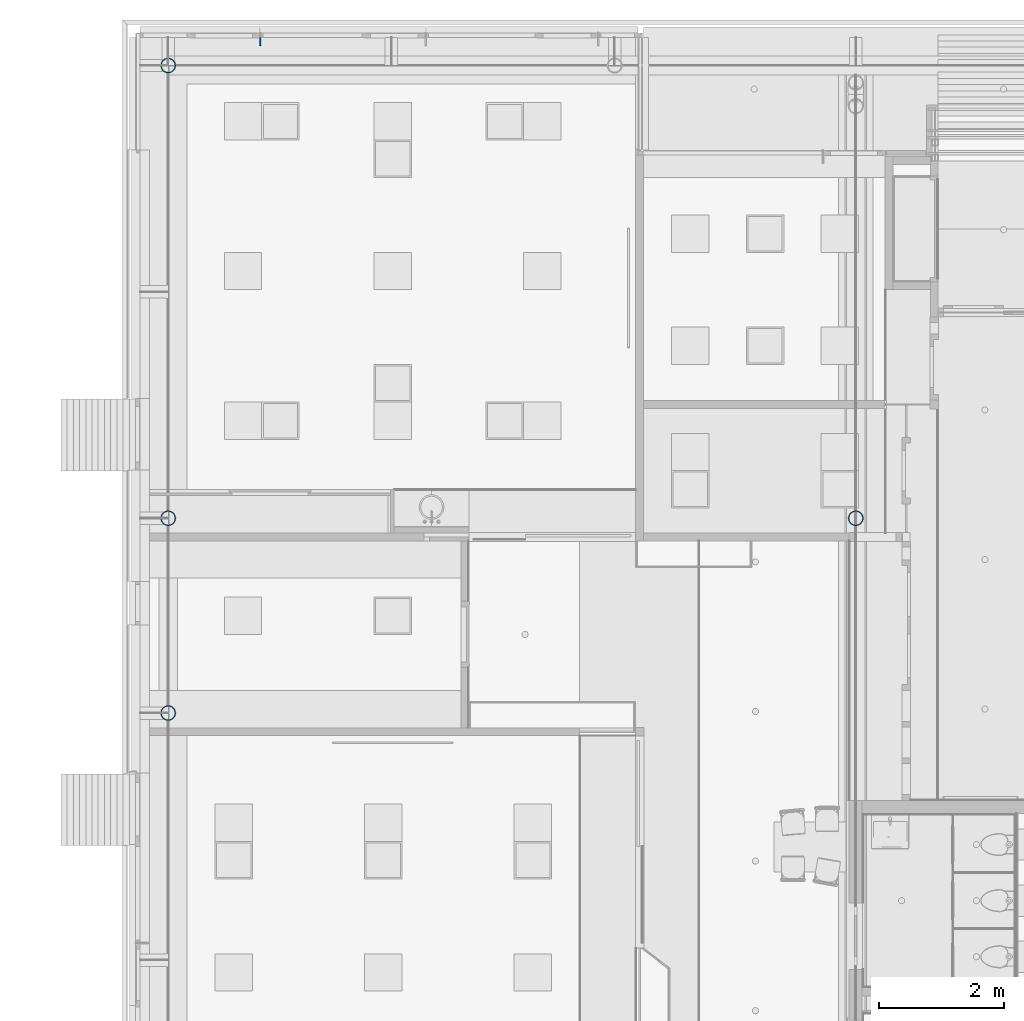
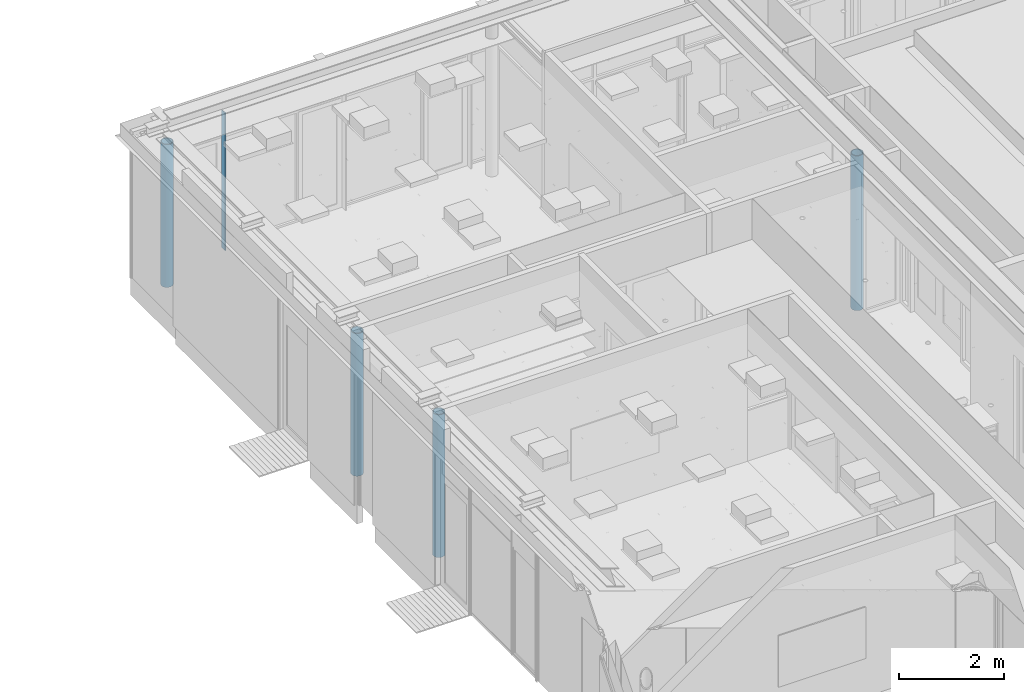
# One storey, part 18 of 347: 5 columns.
"""IFC2X3 building model written with IfcOpenShell, lengths in millimetres."""

from ifc_helpers import new_model, entity, si_unit, converted_unit, derived_unit, money_unit, direction, frame, origin_with_axes, place, context, subcontext, project, spatial, faceted_brep, material, type_object, element, save


model = new_model("IFC2X3")

# Units and contexts
model_context = context("Model", 3, precision=0.01, world=origin_with_axes(), true_north=direction((0.0, 1.0)))
plan_context = context("Plan", 3, precision=0.01, world=origin_with_axes(), true_north=direction((0.0, 1.0)))
body_context = subcontext(model_context, "Body", "Model", "MODEL_VIEW")
ifc_project = project(units=[si_unit("LENGTHUNIT", "METRE", prefix="MILLI"), si_unit("AREAUNIT", "SQUARE_METRE"), si_unit("VOLUMEUNIT", "CUBIC_METRE"), converted_unit("PLANEANGLEUNIT", "DEGREE", entity("IfcPlaneAngleMeasure", 0.0174532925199), si_unit("PLANEANGLEUNIT", "RADIAN"), dimensions=[0, 0, 0, 0, 0, 0, 0]), money_unit("EUR"), converted_unit("TIMEUNIT", "Year", entity("IfcTimeMeasure", 31556926.0), si_unit("TIMEUNIT", "SECOND"), dimensions=[0, 0, 1, 0, 0, 0, 0]), si_unit("MASSUNIT", "GRAM", prefix="KILO"), si_unit("THERMODYNAMICTEMPERATUREUNIT", "DEGREE_CELSIUS"), si_unit("LUMINOUSINTENSITYUNIT", "LUMEN"), si_unit("ENERGYUNIT", "JOULE", prefix="MEGA"), derived_unit("THERMALCONDUCTANCEUNIT", [(si_unit("POWERUNIT", "WATT"), 1), (si_unit("LENGTHUNIT", "METRE"), -1), (si_unit("THERMODYNAMICTEMPERATUREUNIT", "KELVIN"), -1)]), derived_unit("SPECIFICHEATCAPACITYUNIT", [(si_unit("ENERGYUNIT", "JOULE"), 1), (si_unit("MASSUNIT", "GRAM", prefix="KILO"), -1), (si_unit("THERMODYNAMICTEMPERATUREUNIT", "KELVIN"), -1)]), derived_unit("MASSDENSITYUNIT", [(si_unit("MASSUNIT", "GRAM", prefix="KILO"), 1), (si_unit("VOLUMEUNIT", "CUBIC_METRE"), -1)])], contexts=[model_context, plan_context])

# Site, building, storey
site_placement = place(None, origin_with_axes())
site = spatial("IfcSite", under=ifc_project, at=site_placement, Name="Site", CompositionType="ELEMENT")
building_placement = place(site_placement, origin_with_axes())
building = spatial("IfcBuilding", under=site, at=building_placement, Name="Naam gebouw", CompositionType="ELEMENT")
storey_placement = place(building_placement, origin_with_axes())
storey = spatial("IfcBuildingStorey", under=building, at=storey_placement, Name="begane grond", CompositionType="ELEMENT", Elevation=0.0)

# Columns
ifc_material = material(Name="Metaal - Staal C wit")
column_type_1 = type_object("IfcColumnType", Name="Lucht D245", PredefinedType="COLUMN")
column_1_placement = place(storey_placement, frame((35605.0, 39325.0, -70.0), z_axis=(0.0, 0.0, 1.0), x_axis=(1.0, 0.0, 0.0)))
element("IfcColumn", 1, at=column_1_placement, inside=storey, type_object=column_type_1, material=ifc_material, Name="28_kolom ø 273mm", ObjectType="COLUMN", context=body_context, shape_type="Brep", body=[
    faceted_brep([(-122.25, 0.0, 0.0), (-119.184937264, -27.2031841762, 0.0), (-119.184937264, -27.2031841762, 3610.0), (-122.25, 0.0, 3610.0), (-119.184937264, 27.2031841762, 0.0), (-110.143444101, 53.0422871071, 0.0), (-95.5788987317, 76.2216282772, 0.0), (-76.2216282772, 95.5788987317, 0.0), (-53.0422871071, 110.143444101, 0.0), (-27.2031841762, 119.184937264, 0.0), (0.0, 122.25, 0.0), (27.2031841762, 119.184937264, 0.0), (53.0422871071, 110.143444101, 0.0), (76.2216282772, 95.5788987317, 0.0), (95.5788987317, 76.2216282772, 0.0), (110.143444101, 53.0422871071, 0.0), (119.184937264, 27.2031841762, 0.0), (122.25, 0.0, 0.0), (119.184937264, -27.2031841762, 0.0), (110.143444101, -53.0422871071, 0.0), (95.5788987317, -76.2216282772, 0.0), (76.2216282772, -95.5788987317, 0.0), (53.0422871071, -110.143444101, 0.0), (27.2031841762, -119.184937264, 0.0), (0.0, -122.25, 0.0), (-27.2031841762, -119.184937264, 0.0), (-53.0422871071, -110.143444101, 0.0), (-76.2216282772, -95.5788987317, 0.0), (-95.5788987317, -76.2216282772, 0.0), (-110.143444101, -53.0422871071, 0.0), (-106.25, 0.0, 0.0), (-102.629619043, -27.4995235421, 0.0), (-92.0151991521, -53.125, 0.0), (-75.1300955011, -75.1300955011, 0.0), (-53.125, -92.0151991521, 0.0), (-27.4995235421, -102.629619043, 0.0), (0.0, -106.25, 0.0), (27.4995235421, -102.629619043, 0.0), (53.125, -92.0151991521, 0.0), (75.1300955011, -75.1300955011, 0.0), (92.0151991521, -53.125, 0.0), (102.629619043, -27.4995235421, 0.0), (106.25, 0.0, 0.0), (102.629619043, 27.4995235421, 0.0), (92.0151991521, 53.125, 0.0), (75.1300955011, 75.1300955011, 0.0), (53.125, 92.0151991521, 0.0), (27.4995235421, 102.629619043, 0.0), (0.0, 106.25, 0.0), (-27.4995235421, 102.629619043, 0.0), (-53.125, 92.0151991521, 0.0), (-75.1300955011, 75.1300955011, 0.0), (-92.0151991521, 53.125, 0.0), (-102.629619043, 27.4995235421, 0.0), (-110.143444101, -53.0422871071, 3610.0), (-95.5788987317, -76.2216282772, 3610.0), (-76.2216282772, -95.5788987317, 3610.0), (-53.0422871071, -110.143444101, 3610.0), (-27.2031841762, -119.184937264, 3610.0), (0.0, -122.25, 3610.0), (27.2031841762, -119.184937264, 3610.0), (53.0422871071, -110.143444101, 3610.0), (76.2216282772, -95.5788987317, 3610.0), (95.5788987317, -76.2216282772, 3610.0), (110.143444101, -53.0422871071, 3610.0), (119.184937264, -27.2031841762, 3610.0), (122.25, 0.0, 3610.0), (119.184937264, 27.2031841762, 3610.0), (110.143444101, 53.0422871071, 3610.0), (95.5788987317, 76.2216282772, 3610.0), (76.2216282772, 95.5788987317, 3610.0), (53.0422871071, 110.143444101, 3610.0), (27.2031841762, 119.184937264, 3610.0), (0.0, 122.25, 3610.0), (-27.2031841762, 119.184937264, 3610.0), (-53.0422871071, 110.143444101, 3610.0), (-76.2216282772, 95.5788987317, 3610.0), (-95.5788987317, 76.2216282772, 3610.0), (-110.143444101, 53.0422871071, 3610.0), (-119.184937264, 27.2031841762, 3610.0), (-106.25, 0.0, 3610.0), (-102.629619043, 27.4995235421, 3610.0), (-92.0151991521, 53.125, 3610.0), (-75.1300955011, 75.1300955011, 3610.0), (-53.125, 92.0151991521, 3610.0), (-27.4995235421, 102.629619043, 3610.0), (0.0, 106.25, 3610.0), (27.4995235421, 102.629619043, 3610.0), (53.125, 92.0151991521, 3610.0), (75.1300955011, 75.1300955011, 3610.0), (92.0151991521, 53.125, 3610.0), (102.629619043, 27.4995235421, 3610.0), (106.25, 0.0, 3610.0), (102.629619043, -27.4995235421, 3610.0), (92.0151991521, -53.125, 3610.0), (75.1300955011, -75.1300955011, 3610.0), (53.125, -92.0151991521, 3610.0), (27.4995235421, -102.629619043, 3610.0), (0.0, -106.25, 3610.0), (-27.4995235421, -102.629619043, 3610.0), (-53.125, -92.0151991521, 3610.0), (-75.1300955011, -75.1300955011, 3610.0), (-92.0151991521, -53.125, 3610.0), (-102.629619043, -27.4995235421, 3610.0)], [[[0, 1, 2, 3]], [[0, 4, 5, 6, 7, 8, 9, 10, 11, 12, 13, 14, 15, 16, 17, 18, 19, 20, 21, 22, 23, 24, 25, 26, 27, 28, 29, 1], [30, 31, 32, 33, 34, 35, 36, 37, 38, 39, 40, 41, 42, 43, 44, 45, 46, 47, 48, 49, 50, 51, 52, 53]], [[1, 29, 54, 2]], [[3, 2, 54, 55, 56, 57, 58, 59, 60, 61, 62, 63, 64, 65, 66, 67, 68, 69, 70, 71, 72, 73, 74, 75, 76, 77, 78, 79], [80, 81, 82, 83, 84, 85, 86, 87, 88, 89, 90, 91, 92, 93, 94, 95, 96, 97, 98, 99, 100, 101, 102, 103]], [[4, 0, 3, 79]], [[5, 4, 79, 78]], [[6, 5, 78, 77]], [[7, 6, 77, 76]], [[8, 7, 76, 75]], [[9, 8, 75, 74]], [[10, 9, 74, 73]], [[11, 10, 73, 72]], [[12, 11, 72, 71]], [[13, 12, 71, 70]], [[14, 13, 70, 69]], [[15, 14, 69, 68]], [[16, 15, 68, 67]], [[17, 16, 67, 66]], [[18, 17, 66, 65]], [[19, 18, 65, 64]], [[20, 19, 64, 63]], [[21, 20, 63, 62]], [[22, 21, 62, 61]], [[23, 22, 61, 60]], [[24, 23, 60, 59]], [[25, 24, 59, 58]], [[26, 25, 58, 57]], [[27, 26, 57, 56]], [[28, 27, 56, 55]], [[29, 28, 55, 54]], [[31, 30, 80, 103]], [[32, 31, 103, 102]], [[33, 32, 102, 101]], [[34, 33, 101, 100]], [[35, 34, 100, 99]], [[36, 35, 99, 98]], [[37, 36, 98, 97]], [[38, 37, 97, 96]], [[39, 38, 96, 95]], [[40, 39, 95, 94]], [[41, 40, 94, 93]], [[42, 41, 93, 92]], [[43, 42, 92, 91]], [[44, 43, 91, 90]], [[45, 44, 90, 89]], [[46, 45, 89, 88]], [[47, 46, 88, 87]], [[48, 47, 87, 86]], [[49, 48, 86, 85]], [[50, 49, 85, 84]], [[51, 50, 84, 83]], [[52, 51, 83, 82]], [[53, 52, 82, 81]], [[30, 53, 81, 80]]]),
])
column_2_placement = place(storey_placement, frame((24575.0, 39325.0, -70.0), z_axis=(0.0, 0.0, 1.0), x_axis=(1.0, 0.0, 0.0)))
element("IfcColumn", 2, at=column_2_placement, inside=storey, type_object=column_type_1, material=ifc_material, Name="28_kolom ø 273mm", ObjectType="COLUMN", context=body_context, shape_type="Brep", body=[
    faceted_brep([(-122.25, 0.0, 0.0), (-119.184937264, -27.2031841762, 0.0), (-119.184937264, -27.2031841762, 3330.0), (-122.25, 0.0, 3330.0), (-119.184937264, 27.2031841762, 0.0), (-110.143444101, 53.0422871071, 0.0), (-95.5788987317, 76.2216282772, 0.0), (-76.2216282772, 95.5788987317, 0.0), (-53.0422871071, 110.143444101, 0.0), (-27.2031841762, 119.184937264, 0.0), (0.0, 122.25, 0.0), (27.2031841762, 119.184937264, 0.0), (53.0422871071, 110.143444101, 0.0), (76.2216282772, 95.5788987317, 0.0), (95.5788987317, 76.2216282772, 0.0), (110.143444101, 53.0422871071, 0.0), (119.184937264, 27.2031841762, 0.0), (122.25, 0.0, 0.0), (119.184937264, -27.2031841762, 0.0), (110.143444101, -53.0422871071, 0.0), (95.5788987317, -76.2216282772, 0.0), (76.2216282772, -95.5788987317, 0.0), (53.0422871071, -110.143444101, 0.0), (27.2031841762, -119.184937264, 0.0), (0.0, -122.25, 0.0), (-27.2031841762, -119.184937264, 0.0), (-53.0422871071, -110.143444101, 0.0), (-76.2216282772, -95.5788987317, 0.0), (-95.5788987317, -76.2216282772, 0.0), (-110.143444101, -53.0422871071, 0.0), (-106.25, 0.0, 0.0), (-102.629619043, -27.4995235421, 0.0), (-92.0151991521, -53.125, 0.0), (-75.1300955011, -75.1300955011, 0.0), (-53.125, -92.0151991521, 0.0), (-27.4995235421, -102.629619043, 0.0), (0.0, -106.25, 0.0), (27.4995235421, -102.629619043, 0.0), (53.125, -92.0151991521, 0.0), (75.1300955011, -75.1300955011, 0.0), (92.0151991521, -53.125, 0.0), (102.629619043, -27.4995235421, 0.0), (106.25, 0.0, 0.0), (102.629619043, 27.4995235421, 0.0), (92.0151991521, 53.125, 0.0), (75.1300955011, 75.1300955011, 0.0), (53.125, 92.0151991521, 0.0), (27.4995235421, 102.629619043, 0.0), (0.0, 106.25, 0.0), (-27.4995235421, 102.629619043, 0.0), (-53.125, 92.0151991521, 0.0), (-75.1300955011, 75.1300955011, 0.0), (-92.0151991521, 53.125, 0.0), (-102.629619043, 27.4995235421, 0.0), (-110.143444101, -53.0422871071, 3330.0), (-95.5788987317, -76.2216282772, 3330.0), (-76.2216282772, -95.5788987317, 3330.0), (-53.0422871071, -110.143444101, 3330.0), (-27.2031841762, -119.184937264, 3330.0), (0.0, -122.25, 3330.0), (27.2031841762, -119.184937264, 3330.0), (53.0422871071, -110.143444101, 3330.0), (76.2216282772, -95.5788987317, 3330.0), (95.5788987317, -76.2216282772, 3330.0), (110.143444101, -53.0422871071, 3330.0), (119.184937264, -27.2031841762, 3330.0), (122.25, 0.0, 3330.0), (119.184937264, 27.2031841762, 3330.0), (110.143444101, 53.0422871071, 3330.0), (95.5788987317, 76.2216282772, 3330.0), (76.2216282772, 95.5788987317, 3330.0), (53.0422871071, 110.143444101, 3330.0), (27.2031841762, 119.184937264, 3330.0), (0.0, 122.25, 3330.0), (-27.2031841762, 119.184937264, 3330.0), (-53.0422871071, 110.143444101, 3330.0), (-76.2216282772, 95.5788987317, 3330.0), (-95.5788987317, 76.2216282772, 3330.0), (-110.143444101, 53.0422871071, 3330.0), (-119.184937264, 27.2031841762, 3330.0), (-106.25, 0.0, 3330.0), (-102.629619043, 27.4995235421, 3330.0), (-92.0151991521, 53.125, 3330.0), (-75.1300955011, 75.1300955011, 3330.0), (-53.125, 92.0151991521, 3330.0), (-27.4995235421, 102.629619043, 3330.0), (0.0, 106.25, 3330.0), (27.4995235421, 102.629619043, 3330.0), (53.125, 92.0151991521, 3330.0), (75.1300955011, 75.1300955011, 3330.0), (92.0151991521, 53.125, 3330.0), (102.629619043, 27.4995235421, 3330.0), (106.25, 0.0, 3330.0), (102.629619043, -27.4995235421, 3330.0), (92.0151991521, -53.125, 3330.0), (75.1300955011, -75.1300955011, 3330.0), (53.125, -92.0151991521, 3330.0), (27.4995235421, -102.629619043, 3330.0), (0.0, -106.25, 3330.0), (-27.4995235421, -102.629619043, 3330.0), (-53.125, -92.0151991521, 3330.0), (-75.1300955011, -75.1300955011, 3330.0), (-92.0151991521, -53.125, 3330.0), (-102.629619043, -27.4995235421, 3330.0)], [[[0, 1, 2, 3]], [[0, 4, 5, 6, 7, 8, 9, 10, 11, 12, 13, 14, 15, 16, 17, 18, 19, 20, 21, 22, 23, 24, 25, 26, 27, 28, 29, 1], [30, 31, 32, 33, 34, 35, 36, 37, 38, 39, 40, 41, 42, 43, 44, 45, 46, 47, 48, 49, 50, 51, 52, 53]], [[1, 29, 54, 2]], [[3, 2, 54, 55, 56, 57, 58, 59, 60, 61, 62, 63, 64, 65, 66, 67, 68, 69, 70, 71, 72, 73, 74, 75, 76, 77, 78, 79], [80, 81, 82, 83, 84, 85, 86, 87, 88, 89, 90, 91, 92, 93, 94, 95, 96, 97, 98, 99, 100, 101, 102, 103]], [[4, 0, 3, 79]], [[5, 4, 79, 78]], [[6, 5, 78, 77]], [[7, 6, 77, 76]], [[8, 7, 76, 75]], [[9, 8, 75, 74]], [[10, 9, 74, 73]], [[11, 10, 73, 72]], [[12, 11, 72, 71]], [[13, 12, 71, 70]], [[14, 13, 70, 69]], [[15, 14, 69, 68]], [[16, 15, 68, 67]], [[17, 16, 67, 66]], [[18, 17, 66, 65]], [[19, 18, 65, 64]], [[20, 19, 64, 63]], [[21, 20, 63, 62]], [[22, 21, 62, 61]], [[23, 22, 61, 60]], [[24, 23, 60, 59]], [[25, 24, 59, 58]], [[26, 25, 58, 57]], [[27, 26, 57, 56]], [[28, 27, 56, 55]], [[29, 28, 55, 54]], [[31, 30, 80, 103]], [[32, 31, 103, 102]], [[33, 32, 102, 101]], [[34, 33, 101, 100]], [[35, 34, 100, 99]], [[36, 35, 99, 98]], [[37, 36, 98, 97]], [[38, 37, 97, 96]], [[39, 38, 96, 95]], [[40, 39, 95, 94]], [[41, 40, 94, 93]], [[42, 41, 93, 92]], [[43, 42, 92, 91]], [[44, 43, 91, 90]], [[45, 44, 90, 89]], [[46, 45, 89, 88]], [[47, 46, 88, 87]], [[48, 47, 87, 86]], [[49, 48, 86, 85]], [[50, 49, 85, 84]], [[51, 50, 84, 83]], [[52, 51, 83, 82]], [[53, 52, 82, 81]], [[30, 53, 81, 80]]]),
])
column_3_placement = place(storey_placement, frame((24575.0, 36200.0, -70.0), z_axis=(0.0, 0.0, 1.0), x_axis=(1.0, 0.0, 0.0)))
element("IfcColumn", 3, at=column_3_placement, inside=storey, type_object=column_type_1, material=ifc_material, Name="28_kolom ø 273mm", ObjectType="COLUMN", context=body_context, shape_type="Brep", body=[
    faceted_brep([(-122.25, 0.0, 0.0), (-119.184937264, -27.2031841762, 0.0), (-119.184937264, -27.2031841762, 3330.0), (-122.25, 0.0, 3330.0), (-119.184937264, 27.2031841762, 0.0), (-110.143444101, 53.0422871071, 0.0), (-95.5788987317, 76.2216282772, 0.0), (-76.2216282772, 95.5788987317, 0.0), (-53.0422871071, 110.143444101, 0.0), (-27.2031841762, 119.184937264, 0.0), (0.0, 122.25, 0.0), (27.2031841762, 119.184937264, 0.0), (53.0422871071, 110.143444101, 0.0), (76.2216282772, 95.5788987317, 0.0), (95.5788987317, 76.2216282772, 0.0), (110.143444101, 53.0422871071, 0.0), (119.184937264, 27.2031841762, 0.0), (122.25, 0.0, 0.0), (119.184937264, -27.2031841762, 0.0), (110.143444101, -53.0422871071, 0.0), (95.5788987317, -76.2216282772, 0.0), (76.2216282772, -95.5788987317, 0.0), (53.0422871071, -110.143444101, 0.0), (27.2031841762, -119.184937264, 0.0), (0.0, -122.25, 0.0), (-27.2031841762, -119.184937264, 0.0), (-53.0422871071, -110.143444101, 0.0), (-76.2216282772, -95.5788987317, 0.0), (-95.5788987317, -76.2216282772, 0.0), (-110.143444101, -53.0422871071, 0.0), (-106.25, 0.0, 0.0), (-102.629619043, -27.4995235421, 0.0), (-92.0151991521, -53.125, 0.0), (-75.1300955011, -75.1300955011, 0.0), (-53.125, -92.0151991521, 0.0), (-27.4995235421, -102.629619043, 0.0), (0.0, -106.25, 0.0), (27.4995235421, -102.629619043, 0.0), (53.125, -92.0151991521, 0.0), (75.1300955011, -75.1300955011, 0.0), (92.0151991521, -53.125, 0.0), (102.629619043, -27.4995235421, 0.0), (106.25, 0.0, 0.0), (102.629619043, 27.4995235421, 0.0), (92.0151991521, 53.125, 0.0), (75.1300955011, 75.1300955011, 0.0), (53.125, 92.0151991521, 0.0), (27.4995235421, 102.629619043, 0.0), (0.0, 106.25, 0.0), (-27.4995235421, 102.629619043, 0.0), (-53.125, 92.0151991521, 0.0), (-75.1300955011, 75.1300955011, 0.0), (-92.0151991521, 53.125, 0.0), (-102.629619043, 27.4995235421, 0.0), (-110.143444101, -53.0422871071, 3330.0), (-95.5788987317, -76.2216282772, 3330.0), (-76.2216282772, -95.5788987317, 3330.0), (-53.0422871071, -110.143444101, 3330.0), (-27.2031841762, -119.184937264, 3330.0), (0.0, -122.25, 3330.0), (27.2031841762, -119.184937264, 3330.0), (53.0422871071, -110.143444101, 3330.0), (76.2216282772, -95.5788987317, 3330.0), (95.5788987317, -76.2216282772, 3330.0), (110.143444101, -53.0422871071, 3330.0), (119.184937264, -27.2031841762, 3330.0), (122.25, 0.0, 3330.0), (119.184937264, 27.2031841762, 3330.0), (110.143444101, 53.0422871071, 3330.0), (95.5788987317, 76.2216282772, 3330.0), (76.2216282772, 95.5788987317, 3330.0), (53.0422871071, 110.143444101, 3330.0), (27.2031841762, 119.184937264, 3330.0), (0.0, 122.25, 3330.0), (-27.2031841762, 119.184937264, 3330.0), (-53.0422871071, 110.143444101, 3330.0), (-76.2216282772, 95.5788987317, 3330.0), (-95.5788987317, 76.2216282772, 3330.0), (-110.143444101, 53.0422871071, 3330.0), (-119.184937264, 27.2031841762, 3330.0), (-106.25, 0.0, 3330.0), (-102.629619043, 27.4995235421, 3330.0), (-92.0151991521, 53.125, 3330.0), (-75.1300955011, 75.1300955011, 3330.0), (-53.125, 92.0151991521, 3330.0), (-27.4995235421, 102.629619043, 3330.0), (0.0, 106.25, 3330.0), (27.4995235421, 102.629619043, 3330.0), (53.125, 92.0151991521, 3330.0), (75.1300955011, 75.1300955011, 3330.0), (92.0151991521, 53.125, 3330.0), (102.629619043, 27.4995235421, 3330.0), (106.25, 0.0, 3330.0), (102.629619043, -27.4995235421, 3330.0), (92.0151991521, -53.125, 3330.0), (75.1300955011, -75.1300955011, 3330.0), (53.125, -92.0151991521, 3330.0), (27.4995235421, -102.629619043, 3330.0), (0.0, -106.25, 3330.0), (-27.4995235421, -102.629619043, 3330.0), (-53.125, -92.0151991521, 3330.0), (-75.1300955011, -75.1300955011, 3330.0), (-92.0151991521, -53.125, 3330.0), (-102.629619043, -27.4995235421, 3330.0)], [[[0, 1, 2, 3]], [[0, 4, 5, 6, 7, 8, 9, 10, 11, 12, 13, 14, 15, 16, 17, 18, 19, 20, 21, 22, 23, 24, 25, 26, 27, 28, 29, 1], [30, 31, 32, 33, 34, 35, 36, 37, 38, 39, 40, 41, 42, 43, 44, 45, 46, 47, 48, 49, 50, 51, 52, 53]], [[1, 29, 54, 2]], [[3, 2, 54, 55, 56, 57, 58, 59, 60, 61, 62, 63, 64, 65, 66, 67, 68, 69, 70, 71, 72, 73, 74, 75, 76, 77, 78, 79], [80, 81, 82, 83, 84, 85, 86, 87, 88, 89, 90, 91, 92, 93, 94, 95, 96, 97, 98, 99, 100, 101, 102, 103]], [[4, 0, 3, 79]], [[5, 4, 79, 78]], [[6, 5, 78, 77]], [[7, 6, 77, 76]], [[8, 7, 76, 75]], [[9, 8, 75, 74]], [[10, 9, 74, 73]], [[11, 10, 73, 72]], [[12, 11, 72, 71]], [[13, 12, 71, 70]], [[14, 13, 70, 69]], [[15, 14, 69, 68]], [[16, 15, 68, 67]], [[17, 16, 67, 66]], [[18, 17, 66, 65]], [[19, 18, 65, 64]], [[20, 19, 64, 63]], [[21, 20, 63, 62]], [[22, 21, 62, 61]], [[23, 22, 61, 60]], [[24, 23, 60, 59]], [[25, 24, 59, 58]], [[26, 25, 58, 57]], [[27, 26, 57, 56]], [[28, 27, 56, 55]], [[29, 28, 55, 54]], [[31, 30, 80, 103]], [[32, 31, 103, 102]], [[33, 32, 102, 101]], [[34, 33, 101, 100]], [[35, 34, 100, 99]], [[36, 35, 99, 98]], [[37, 36, 98, 97]], [[38, 37, 97, 96]], [[39, 38, 96, 95]], [[40, 39, 95, 94]], [[41, 40, 94, 93]], [[42, 41, 93, 92]], [[43, 42, 92, 91]], [[44, 43, 91, 90]], [[45, 44, 90, 89]], [[46, 45, 89, 88]], [[47, 46, 88, 87]], [[48, 47, 87, 86]], [[49, 48, 86, 85]], [[50, 49, 85, 84]], [[51, 50, 84, 83]], [[52, 51, 83, 82]], [[53, 52, 82, 81]], [[30, 53, 81, 80]]]),
])
column_4_placement = place(storey_placement, frame((24575.0, 46586.9999775, -70.0), z_axis=(0.0, 0.0, 1.0), x_axis=(1.0, 0.0, 0.0)))
element("IfcColumn", 4, at=column_4_placement, inside=storey, type_object=column_type_1, material=ifc_material, Name="28_kolom ø 273mm", ObjectType="COLUMN", context=body_context, shape_type="Brep", body=[
    faceted_brep([(-122.25, 0.0, 0.0), (-119.184937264, -27.2031841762, 0.0), (-119.184937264, -27.2031841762, 3330.0), (-122.25, 0.0, 3330.0), (-119.184937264, 27.2031841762, 0.0), (-110.143444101, 53.0422871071, 0.0), (-95.5788987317, 76.2216282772, 0.0), (-76.2216282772, 95.5788987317, 0.0), (-53.0422871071, 110.143444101, 0.0), (-27.2031841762, 119.184937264, 0.0), (0.0, 122.25, 0.0), (27.2031841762, 119.184937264, 0.0), (53.0422871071, 110.143444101, 0.0), (76.2216282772, 95.5788987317, 0.0), (95.5788987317, 76.2216282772, 0.0), (110.143444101, 53.0422871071, 0.0), (119.184937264, 27.2031841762, 0.0), (122.25, 0.0, 0.0), (119.184937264, -27.2031841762, 0.0), (110.143444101, -53.0422871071, 0.0), (95.5788987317, -76.2216282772, 0.0), (76.2216282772, -95.5788987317, 0.0), (53.0422871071, -110.143444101, 0.0), (27.2031841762, -119.184937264, 0.0), (0.0, -122.25, 0.0), (-27.2031841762, -119.184937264, 0.0), (-53.0422871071, -110.143444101, 0.0), (-76.2216282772, -95.5788987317, 0.0), (-95.5788987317, -76.2216282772, 0.0), (-110.143444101, -53.0422871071, 0.0), (-106.25, 0.0, 0.0), (-102.629619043, -27.4995235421, 0.0), (-92.0151991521, -53.125, 0.0), (-75.1300955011, -75.1300955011, 0.0), (-53.125, -92.0151991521, 0.0), (-27.4995235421, -102.629619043, 0.0), (0.0, -106.25, 0.0), (27.4995235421, -102.629619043, 0.0), (53.125, -92.0151991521, 0.0), (75.1300955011, -75.1300955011, 0.0), (92.0151991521, -53.125, 0.0), (102.629619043, -27.4995235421, 0.0), (106.25, 0.0, 0.0), (102.629619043, 27.4995235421, 0.0), (92.0151991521, 53.125, 0.0), (75.1300955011, 75.1300955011, 0.0), (53.125, 92.0151991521, 0.0), (27.4995235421, 102.629619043, 0.0), (0.0, 106.25, 0.0), (-27.4995235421, 102.629619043, 0.0), (-53.125, 92.0151991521, 0.0), (-75.1300955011, 75.1300955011, 0.0), (-92.0151991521, 53.125, 0.0), (-102.629619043, 27.4995235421, 0.0), (-110.143444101, -53.0422871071, 3330.0), (-95.5788987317, -76.2216282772, 3330.0), (-76.2216282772, -95.5788987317, 3330.0), (-53.0422871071, -110.143444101, 3330.0), (-27.2031841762, -119.184937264, 3330.0), (0.0, -122.25, 3330.0), (27.2031841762, -119.184937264, 3330.0), (53.0422871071, -110.143444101, 3330.0), (76.2216282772, -95.5788987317, 3330.0), (95.5788987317, -76.2216282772, 3330.0), (110.143444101, -53.0422871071, 3330.0), (119.184937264, -27.2031841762, 3330.0), (122.25, 0.0, 3330.0), (119.184937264, 27.2031841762, 3330.0), (110.143444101, 53.0422871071, 3330.0), (95.5788987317, 76.2216282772, 3330.0), (76.2216282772, 95.5788987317, 3330.0), (53.0422871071, 110.143444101, 3330.0), (27.2031841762, 119.184937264, 3330.0), (0.0, 122.25, 3330.0), (-27.2031841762, 119.184937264, 3330.0), (-53.0422871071, 110.143444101, 3330.0), (-76.2216282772, 95.5788987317, 3330.0), (-95.5788987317, 76.2216282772, 3330.0), (-110.143444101, 53.0422871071, 3330.0), (-119.184937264, 27.2031841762, 3330.0), (-106.25, 0.0, 3330.0), (-102.629619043, 27.4995235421, 3330.0), (-92.0151991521, 53.125, 3330.0), (-75.1300955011, 75.1300955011, 3330.0), (-53.125, 92.0151991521, 3330.0), (-27.4995235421, 102.629619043, 3330.0), (0.0, 106.25, 3330.0), (27.4995235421, 102.629619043, 3330.0), (53.125, 92.0151991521, 3330.0), (75.1300955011, 75.1300955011, 3330.0), (92.0151991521, 53.125, 3330.0), (102.629619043, 27.4995235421, 3330.0), (106.25, 0.0, 3330.0), (102.629619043, -27.4995235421, 3330.0), (92.0151991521, -53.125, 3330.0), (75.1300955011, -75.1300955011, 3330.0), (53.125, -92.0151991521, 3330.0), (27.4995235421, -102.629619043, 3330.0), (0.0, -106.25, 3330.0), (-27.4995235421, -102.629619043, 3330.0), (-53.125, -92.0151991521, 3330.0), (-75.1300955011, -75.1300955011, 3330.0), (-92.0151991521, -53.125, 3330.0), (-102.629619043, -27.4995235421, 3330.0)], [[[0, 1, 2, 3]], [[0, 4, 5, 6, 7, 8, 9, 10, 11, 12, 13, 14, 15, 16, 17, 18, 19, 20, 21, 22, 23, 24, 25, 26, 27, 28, 29, 1], [30, 31, 32, 33, 34, 35, 36, 37, 38, 39, 40, 41, 42, 43, 44, 45, 46, 47, 48, 49, 50, 51, 52, 53]], [[1, 29, 54, 2]], [[3, 2, 54, 55, 56, 57, 58, 59, 60, 61, 62, 63, 64, 65, 66, 67, 68, 69, 70, 71, 72, 73, 74, 75, 76, 77, 78, 79], [80, 81, 82, 83, 84, 85, 86, 87, 88, 89, 90, 91, 92, 93, 94, 95, 96, 97, 98, 99, 100, 101, 102, 103]], [[4, 0, 3, 79]], [[5, 4, 79, 78]], [[6, 5, 78, 77]], [[7, 6, 77, 76]], [[8, 7, 76, 75]], [[9, 8, 75, 74]], [[10, 9, 74, 73]], [[11, 10, 73, 72]], [[12, 11, 72, 71]], [[13, 12, 71, 70]], [[14, 13, 70, 69]], [[15, 14, 69, 68]], [[16, 15, 68, 67]], [[17, 16, 67, 66]], [[18, 17, 66, 65]], [[19, 18, 65, 64]], [[20, 19, 64, 63]], [[21, 20, 63, 62]], [[22, 21, 62, 61]], [[23, 22, 61, 60]], [[24, 23, 60, 59]], [[25, 24, 59, 58]], [[26, 25, 58, 57]], [[27, 26, 57, 56]], [[28, 27, 56, 55]], [[29, 28, 55, 54]], [[31, 30, 80, 103]], [[32, 31, 103, 102]], [[33, 32, 102, 101]], [[34, 33, 101, 100]], [[35, 34, 100, 99]], [[36, 35, 99, 98]], [[37, 36, 98, 97]], [[38, 37, 97, 96]], [[39, 38, 96, 95]], [[40, 39, 95, 94]], [[41, 40, 94, 93]], [[42, 41, 93, 92]], [[43, 42, 92, 91]], [[44, 43, 91, 90]], [[45, 44, 90, 89]], [[46, 45, 89, 88]], [[47, 46, 88, 87]], [[48, 47, 87, 86]], [[49, 48, 86, 85]], [[50, 49, 85, 84]], [[51, 50, 84, 83]], [[52, 51, 83, 82]], [[53, 52, 82, 81]], [[30, 53, 81, 80]]]),
])
column_type_2 = type_object("IfcColumnType", Name="Metaal - Staal C wit 20 x 130", PredefinedType="COLUMN")
column_5_placement = place(storey_placement, frame((26052.0, 46971.9999018, -10.0), z_axis=(0.0, 0.0, 1.0), x_axis=(-1.0, 0.0, 0.0)))
element("IfcColumn", 5, at=column_5_placement, inside=storey, type_object=column_type_2, material=ifc_material, Name="28_kolom koker", ObjectType="COLUMN", context=body_context, shape_type="Brep", body=[
    faceted_brep([(-10.0, -65.0, 3210.0), (-10.0, -65.0, 0.0), (10.0, -65.0, 0.0), (10.0, -65.0, 3210.0), (-10.0, 65.0, 3210.0), (-10.0, 65.0, 0.0), (10.0, 65.0, 0.0), (10.0, 65.0, 3210.0)], [[[0, 1, 2, 3]], [[4, 5, 1, 0]], [[2, 1, 5, 6]], [[3, 2, 6, 7]], [[4, 0, 3, 7]], [[7, 6, 5, 4]]]),
])

save(model, "model.ifc")
